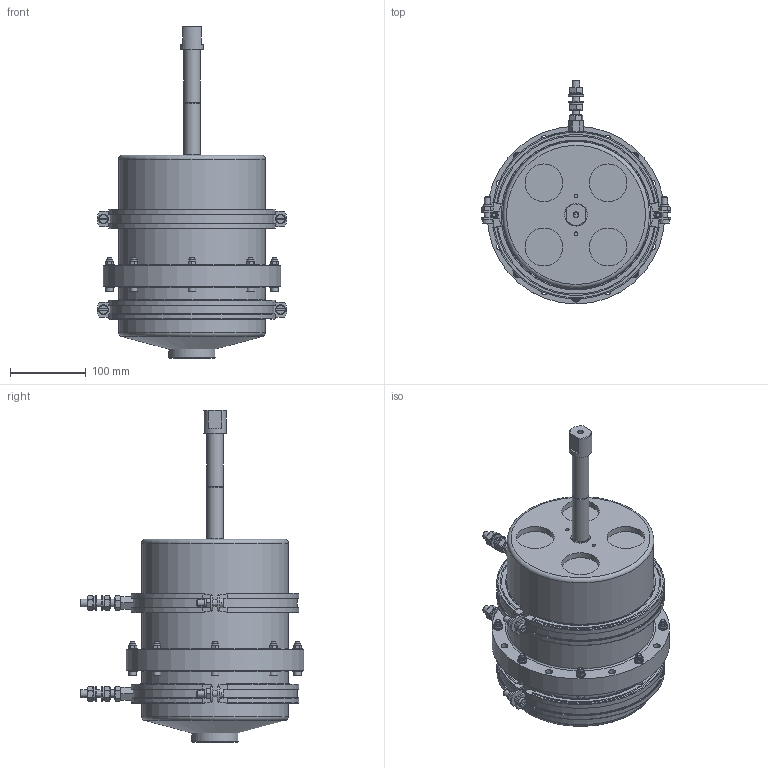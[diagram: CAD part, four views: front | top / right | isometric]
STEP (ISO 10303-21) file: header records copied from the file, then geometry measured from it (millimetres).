
FILE_DESCRIPTION(/* description */ (''),/* implementation_level */ '2;1');
FILE_NAME(/* name */ 'C:\Workspace\Seatools\Products\Compensators (Group)\Hycos\Hyco 3.3L (ME-0225)\LW\STEP file Basic Series 3.3L.stp',/* time_stamp */ '2021-09-22T16:14:45+02:00',/* author */ ('mike'),/* organization */ ('Seatools'),/* preprocessor_version */ 'ST-DEVELOPER v17.2',/* originating_system */ 'Autodesk Inventor 2019',/* authorisation */ '');
FILE_SCHEMA (('AUTOMOTIVE_DESIGN { 1 0 10303 214 3 1 1 }'));
Length unit declared in the file: millimetre
Products named in the file (1): ME-0225-0001 LW
Bounding box: 250.91 x 296 x 439 mm (x, y, z)
Volume: 8081512.9 mm3; surface area: 403323.8 mm2
Topology: 3 solids, 3 shells, 726 faces, 1938 edges, 1302 vertices
Faces by surface type: plane 405, cylinder 158, cone 99, torus 64
Full cylindrical faces by diameter (mm): 2.5 x1, 4.917 x2, 6 x8, 6.647 x1, 8 x8, 8.9 x8, 9 x8, 10 x14, 10.5 x4, 11.6 x4, 12 x16, 20 x4, 22 x3, 24.117 x1, 30 x1, 42 x1, 50 x4, 62 x1, 194 x2, 235 x1
Entity records: 23636 total; most frequent: CARTESIAN_POINT 4751, DIRECTION 3861, ORIENTED_EDGE 3854, EDGE_CURVE 1927, AXIS2_PLACEMENT_3D 1530, VERTEX_POINT 1302, EDGE_LOOP 851, LINE 801
